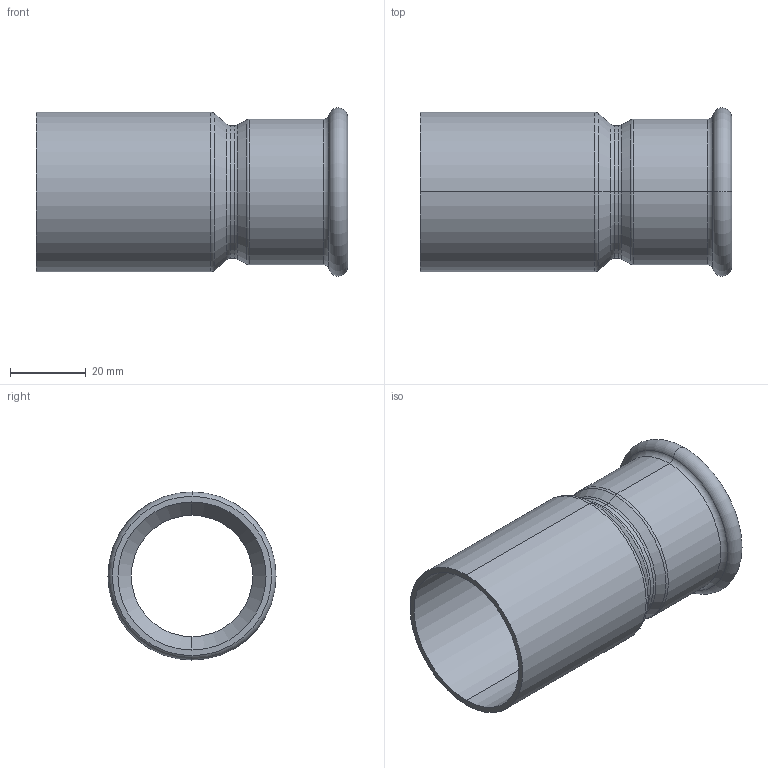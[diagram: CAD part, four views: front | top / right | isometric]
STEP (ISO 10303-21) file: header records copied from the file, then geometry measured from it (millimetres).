
FILE_DESCRIPTION (( 'STEP AP214' ), '1' );
FILE_NAME ('R42350B.STEP', '2025-08-18T00:13:47', ( '' ), ( '' ), 'SwSTEP 2.0', 'SolidWorks 2020', '' );
FILE_SCHEMA (( 'AUTOMOTIVE_DESIGN' ));
Length unit declared in the file: millimetre
Products named in the file (1): R42350B
Bounding box: 82 x 44.3 x 44.3 mm (x, y, z)
Volume: 16137.7 mm3; surface area: 21747.6 mm2
Topology: 1 solids, 1 shells, 40 faces, 80 edges, 44 vertices
Faces by surface type: torus 14, cylinder 14, cone 8, plane 4
Entity records: 1076 total; most frequent: DIRECTION 220, CARTESIAN_POINT 165, ORIENTED_EDGE 160, AXIS2_PLACEMENT_3D 99, EDGE_CURVE 80, CIRCLE 58, EDGE_LOOP 44, VERTEX_POINT 44
